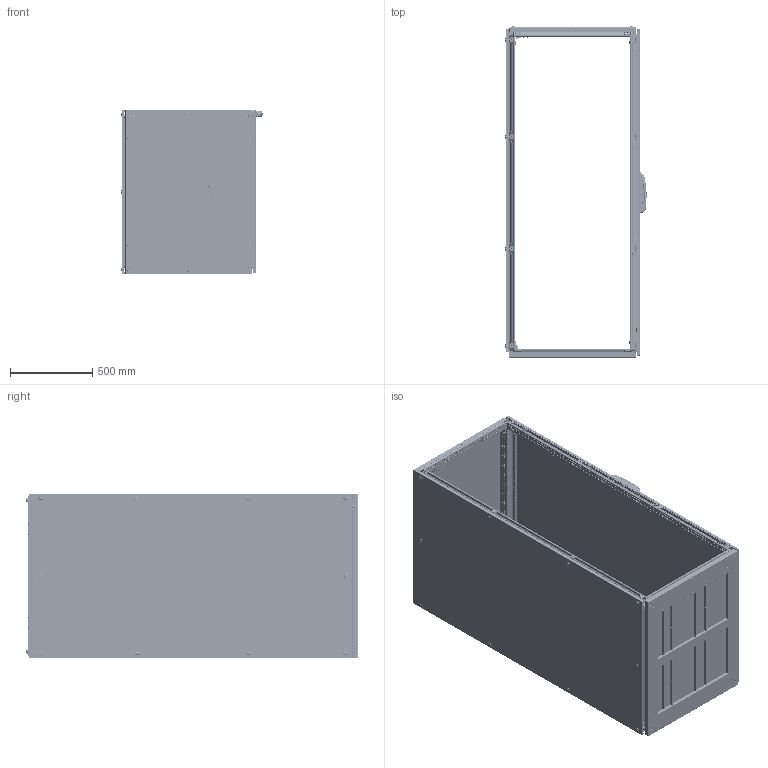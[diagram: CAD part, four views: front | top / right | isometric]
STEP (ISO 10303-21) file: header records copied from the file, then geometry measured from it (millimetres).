
FILE_DESCRIPTION (( 'STEP AP214' ), '1' );
FILE_NAME ('T201008S - 2000 H X 1000 W X 800 D.STEP', '2026-09-14T11:01:43', ( '' ), ( '' ), 'SwSTEP 2.0', 'SolidWorks 2025', '' );
FILE_SCHEMA (( 'AUTOMOTIVE_DESIGN' ));
Length unit declared in the file: millimetre
Products named in the file (96): torque nut 01_isoo_ISO 7040-M6-N; MP 25.0029 TEOS ORTA KİLİT DİLİ; CORNER BRACKET; DDENEME5DENEME4MP 18.7631 32002136; DDENEME5DENEME4MP 18.7631 204 handle REV04 tekpan logo; Teos-Neo MP Durdurucu Destek; TEOS FRAME_1000; Base depth with rivet_PP 12.0026 - 800; PM 25.0042 HINGE BRACKET WITH CAGE NUT TOP - MIDDLE; MP 11.0195 Mounting Plate M8 Wedge; DDENEME5DENEME4TEOS Kilit Çubuk Dili; Riveted Base_701.080-100x80 ALT; flat head screw_am_B18.6.7M - M6 x 1.0 x 30 Type I Cross Recessed FHMS --30N; BOYUNA DELIKLI PROFIL_2000; TEOS FRONT DOOR_1000x2000 tek; MP 25.0027 TEOS MENTEŞE ORTA; 03-TABAN SACI SURGU_PP 12.0032 - 1000; Teos Rear Panel Dkp 1.5 mm_PP 12.0085 1000x2000; kafes somun kafes; Base width with rivet_PP 12.0021 - 1000; MP 25.0026 TEOS MENTEŞE ALT - ÜST; MP 14.0007 M6 PLASTİK HAVSA; Teos-Neo Mounting Plate Right Bracket Mounting_Standart Pozisyon; MP 11.0140 TEOS ALUMINIUM CORNER; PM 25.0039 WITH CAGE NUT TEOS SIDE AND REAR PANEL BRACKET TOP - BOTTOM; DDENEME5DENEME4AynalamaTEOS Kilit Alt Çubuk Montaj4; MP 25.0028 TEOS ALT - ÜST KİLİT DİLİ; PM 25.0038 WITH CAGE NUT TEOS LOCK BRACKET TOP-MIDDLE; B18.3.5M - 5 x 0.8 x 10 Socket FCHS  -- 10N_B18.3.5M - 5 x 0.8 x 10 Socket FCHS  -- 10N; pan head cross recess screw_iso_ISO 7045 - M5 x 10 - Z --- 10C; DDENEME5DENEME4TEOS Kilit Alt Çubuk Montaj_2000H; socket button head cap screw_am1_B18.3.4M - 8 x 1.25 x 16 SBHCS --N; Front Door 2 mm DKP_PP 17.1091 1000x2000; 03-KOSE PUNT_PP 12.0027; TEOS TOP COVER_PP 13.0022 1000x800; CORNER BRACKET 2; M8 Kare Somun_m8; DDENEME5DENEME4AynalamaTEOS Kilit Çubuk Dili-1; DDENEME5DENEME4MP 18.7631 Kol-Cark; MP 25.0031 TEOS YAN VE ARKA KAPAK BAĞLANTI SACI ORTA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
Assembly tree (330 placements, depth 5):
  T201008S -  2000 H X 1000 W X 800 D
    TEOS FRAME ASSEMBLY_1000x2000x800
      TEOS FRAME_2000   x4
      TEOS FRAME_800  x4
      TEOS FRAME_1000  x4
      L CORNER SUPPORT  x8
      CORNER BRACKET  x15
      CORNER BRACKET 2
      MP 11.0140 TEOS ALUMINIUM CORNER  x8
      M5 SQUARE WASHER  x16
      Riveted Base_701.080-100x80 ALT
        Base width with rivet_PP 12.0021 - 1000  x2
        Base depth with rivet_PP 12.0026 - 800  x2
        03-KOSE PUNT_PP 12.0027  x2
        Mirror03-KOSE PUNT  x2
        03taban derinlik orta  percinli 04-2012_PP 16.0120 -800
        03-TABAN SACI SURGU_PP 12.0032 - 1000  x4
        03-TABAN SACI U1 04-2012_PP 12.0042 - 1000-75  x2
        03-TABAN SACI U1 04-2012_PP 12.0037 - 1000-200  x2
        mp aLT DAYAMA_PP 12.0094 - 800  x2
      socket button head cap screw_am1_B18.3.4M - 8 x 1.25 x 16 SBHCS --N  x56
      pan cross head_am1_B18.6.7M - M5 x 0.8 x 10 Type I Cross Recessed PHMS --10N  x23
      B18.3.5M - 5 x 0.8 x 10 Socket FCHS  -- 10N_B18.3.5M - 5 x 0.8 x 10 Socket FCHS  -- 10N  x16
      PM 25.0039 WITH CAGE NUT TEOS SIDE AND REAR PANEL BRACKET TOP - BOTTOM  x4
        MP 25.0030 TEOS YAN VE ARKA KAPAK BAĞLANTI SACI ALT - ÜST
        M6 KAFES SOMU2015 2025
          kafes somun kafes 2025
          somu 2025
      PM 25.0040 WITH CAGE NUT TEOS SIDE AND REAR PANEL BRACKET - MIDDLE  x4
        MP 25.0031 TEOS YAN VE ARKA KAPAK BAĞLANTI SACI ORTA
        M6 KAFES SOMU2015 2025
          kafes somun kafes 2025
          somu 2025
      PM 25.0037 WITH CAGE NUT TEOS LOCK BRACKET TOP-BOTTOM  x2
        MP 25.0028 TEOS ALT - ÜST KİLİT DİLİ
        M6 KAFES SOMU2015 2025
          kafes somun kafes 2025
          somu 2025
      PM 25.0038 WITH CAGE NUT TEOS LOCK BRACKET TOP-MIDDLE  x2
        MP 25.0029 TEOS ORTA KİLİT DİLİ
        M6 KAFES SOMU2015 2025
          kafes somun kafes 2025
          somu 2025
      PM 25.0041 HINGE BRACKET WITH CAGE NUT TOP - BOTTOM  x2
        MP 25.0026 TEOS MENTEŞE ALT - ÜST
        M6 KAFES SOMU
          kafes somun kafes
          somu
      PM 25.0042 HINGE BRACKET WITH CAGE NUT TOP - MIDDLE  x2
        MP 25.0027 TEOS MENTEŞE ORTA
        M6 KAFES SOMU2015 2025
          kafes somun kafes 2025
          somu 2025
      03-TABAN SACI U1 04-2012_PP 12.0037 - 1000-200  x2
    TEOS TOP COVER_PP 13.0022 1000x800
    TEOS FRONT DOOR_1000x2000 tek
      Front Door 2 mm DKP_PP 17.1091 1000x2000
      Front Door Plastic Screw Holder  x4
      Crossmember Frontdoor_1000x2000 tek 
        ENINE DELIKLI PROFIL_1000 tek  x2
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Bounding box: 859.32 x 2018.08 x 1001.56 mm (x, y, z)
Volume: 23054254.9 mm3; surface area: 23378889.3 mm2
Topology: 356 solids, 396 shells, 49140 faces, 132418 edges, 83642 vertices
Faces by surface type: plane 29751, cylinder 14474, bspline 2261, cone 1120, torus 913, sphere 621
Entity records: 639920 total; most frequent: CARTESIAN_POINT 289397, ORIENTED_EDGE 74032, DIRECTION 68611, EDGE_CURVE 37016, VERTEX_POINT 23662, AXIS2_PLACEMENT_3D 22889, LINE 22833, VECTOR 22833
